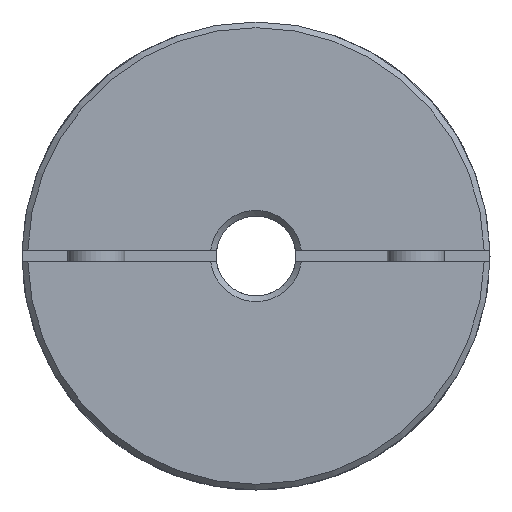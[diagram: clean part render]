
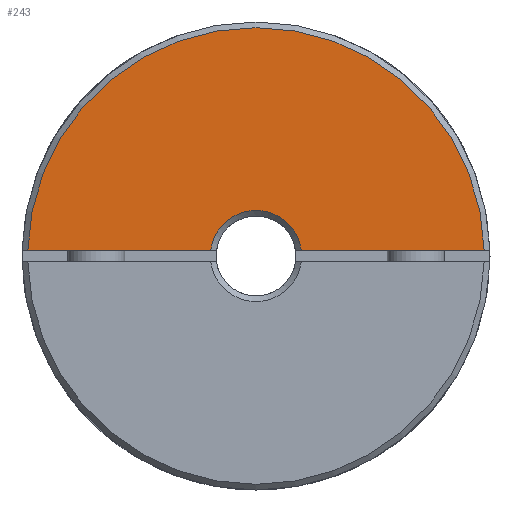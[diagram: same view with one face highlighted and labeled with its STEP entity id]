
A CAD part, left-side view. The second image highlights one B-rep face of the part: STEP entity #243.
In plain terms, the highlighted planar face has unit normal (-1, 0, 0) as drawn and (1, 0, 0) by its records, which use the part's own axes.
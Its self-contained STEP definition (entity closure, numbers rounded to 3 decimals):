
#243 = ADVANCED_FACE( '', ( #481 ), #482, .T. );
#481 = FACE_OUTER_BOUND( '', #812, .T. );
#482 = PLANE( '', #813 );
#812 = EDGE_LOOP( '', ( #1146, #1147, #1148, #1149 ) );
#813 = AXIS2_PLACEMENT_3D( '', #1150, #1151, #1152 );
#1146 = ORIENTED_EDGE( '', *, *, #1712, .F. );
#1147 = ORIENTED_EDGE( '', *, *, #1713, .T. );
#1148 = ORIENTED_EDGE( '', *, *, #1714, .F. );
#1149 = ORIENTED_EDGE( '', *, *, #1715, .T. );
#1150 = CARTESIAN_POINT( '', ( 27., 0., 41. ) );
#1151 = DIRECTION( '', ( 1., 0., 0. ) );
#1152 = DIRECTION( '', ( 0., 0., -1. ) );
#1712 = EDGE_CURVE( '', #1938, #1939, #1940, .T. );
#1713 = EDGE_CURVE( '', #1938, #1941, #1942, .T. );
#1714 = EDGE_CURVE( '', #1943, #1941, #1944, .T. );
#1715 = EDGE_CURVE( '', #1943, #1939, #1945, .F. );
#1938 = VERTEX_POINT( '', #2341 );
#1939 = VERTEX_POINT( '', #2342 );
#1940 = LINE( '', #2343, #2344 );
#1941 = VERTEX_POINT( '', #2345 );
#1942 = CIRCLE( '', #2346, 40. );
#1943 = VERTEX_POINT( '', #2347 );
#1944 = LINE( '', #2348, #2349 );
#1945 = CIRCLE( '', #2350, 8. );
#2341 = CARTESIAN_POINT( '', ( 27., 39.987, 1. ) );
#2342 = CARTESIAN_POINT( '', ( 27., 7.937, 1. ) );
#2343 = CARTESIAN_POINT( '', ( 27., 0., 1. ) );
#2344 = VECTOR( '', #2934, 1000. );
#2345 = CARTESIAN_POINT( '', ( 27., -39.987, 1. ) );
#2346 = AXIS2_PLACEMENT_3D( '', #2935, #2936, #2937 );
#2347 = CARTESIAN_POINT( '', ( 27., -7.937, 1. ) );
#2348 = CARTESIAN_POINT( '', ( 27., 0., 1. ) );
#2349 = VECTOR( '', #2938, 1000. );
#2350 = AXIS2_PLACEMENT_3D( '', #2939, #2940, #2941 );
#2934 = DIRECTION( '', ( 0., -1., 0. ) );
#2935 = CARTESIAN_POINT( '', ( 27., 0., 0. ) );
#2936 = DIRECTION( '', ( 1., 0., 0. ) );
#2937 = DIRECTION( '', ( 0., 0., -1. ) );
#2938 = DIRECTION( '', ( 0., -1., 0. ) );
#2939 = CARTESIAN_POINT( '', ( 27., 0., 0. ) );
#2940 = DIRECTION( '', ( 1., 0., 0. ) );
#2941 = DIRECTION( '', ( 0., 0., -1. ) );
